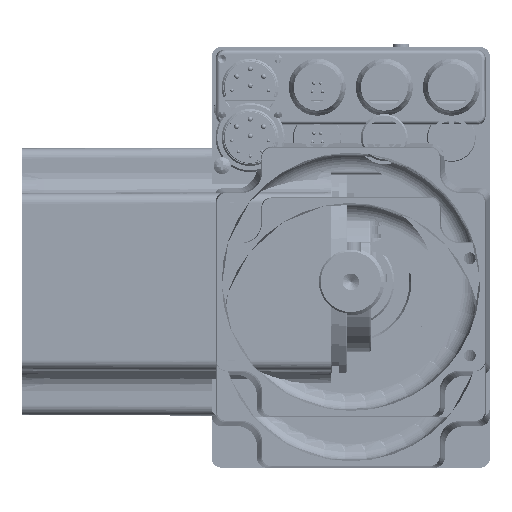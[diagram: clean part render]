
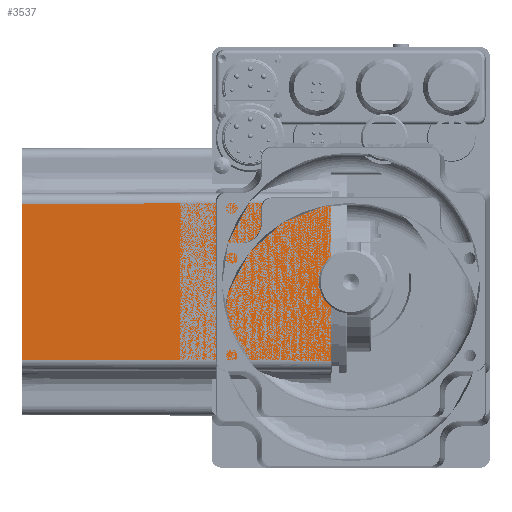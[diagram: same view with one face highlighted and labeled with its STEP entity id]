
A CAD part, front view. The second image highlights one B-rep face of the part: STEP entity #3537.
In plain terms, the highlighted planar face has unit normal (-0.003, -1, 0).
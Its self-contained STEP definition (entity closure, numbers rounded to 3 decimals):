
#3537 = ADVANCED_FACE( '', ( #8444 ), #8445, .T. );
#8444 = FACE_OUTER_BOUND( '', #19609, .T. );
#8445 = PLANE( '', #19610 );
#19609 = EDGE_LOOP( '', ( #34582, #34583, #34584, #34585 ) );
#19610 = AXIS2_PLACEMENT_3D( '', #34586, #34587, #34588 );
#34582 = ORIENTED_EDGE( '', *, *, #45566, .T. );
#34583 = ORIENTED_EDGE( '', *, *, #45794, .T. );
#34584 = ORIENTED_EDGE( '', *, *, #45795, .T. );
#34585 = ORIENTED_EDGE( '', *, *, #44927, .T. );
#34586 = CARTESIAN_POINT( '', ( -5., -40., 0. ) );
#34587 = DIRECTION( '', ( -0.003, -1., 0. ) );
#34588 = DIRECTION( '', ( 1., -0.003, 0. ) );
#44927 = EDGE_CURVE( '', #52127, #52125, #52128, .T. );
#45566 = EDGE_CURVE( '', #52125, #53092, #53094, .T. );
#45794 = EDGE_CURVE( '', #53092, #53401, #53402, .T. );
#45795 = EDGE_CURVE( '', #53401, #52127, #53403, .T. );
#52125 = VERTEX_POINT( '', #71665 );
#52127 = VERTEX_POINT( '', #71667 );
#52128 = LINE( '', #71668, #71669 );
#53092 = VERTEX_POINT( '', #73374 );
#53094 = LINE( '', #73376, #73377 );
#53401 = VERTEX_POINT( '', #73957 );
#53402 = LINE( '', #73958, #73959 );
#53403 = LINE( '', #73960, #73961 );
#71665 = CARTESIAN_POINT( '', ( -98., -39.729, -23.229 ) );
#71667 = CARTESIAN_POINT( '', ( -98., -39.729, 23.229 ) );
#71668 = CARTESIAN_POINT( '', ( -98., -39.729, 0. ) );
#71669 = VECTOR( '', #82657, 1000. );
#73374 = CARTESIAN_POINT( '', ( -6., -39.997, -23.497 ) );
#73376 = CARTESIAN_POINT( '', ( -4.991, -40., -23.5 ) );
#73377 = VECTOR( '', #83471, 1000. );
#73957 = CARTESIAN_POINT( '', ( -6., -39.997, 23.497 ) );
#73958 = CARTESIAN_POINT( '', ( -6., -39.997, 0. ) );
#73959 = VECTOR( '', #83792, 1000. );
#73960 = CARTESIAN_POINT( '', ( -98.991, -39.727, 23.227 ) );
#73961 = VECTOR( '', #83793, 1000. );
#82657 = DIRECTION( '', ( 0., 0., -1. ) );
#83471 = DIRECTION( '', ( 1., -0.003, -0.003 ) );
#83792 = DIRECTION( '', ( 0., 0., 1. ) );
#83793 = DIRECTION( '', ( -1., 0.003, -0.003 ) );
